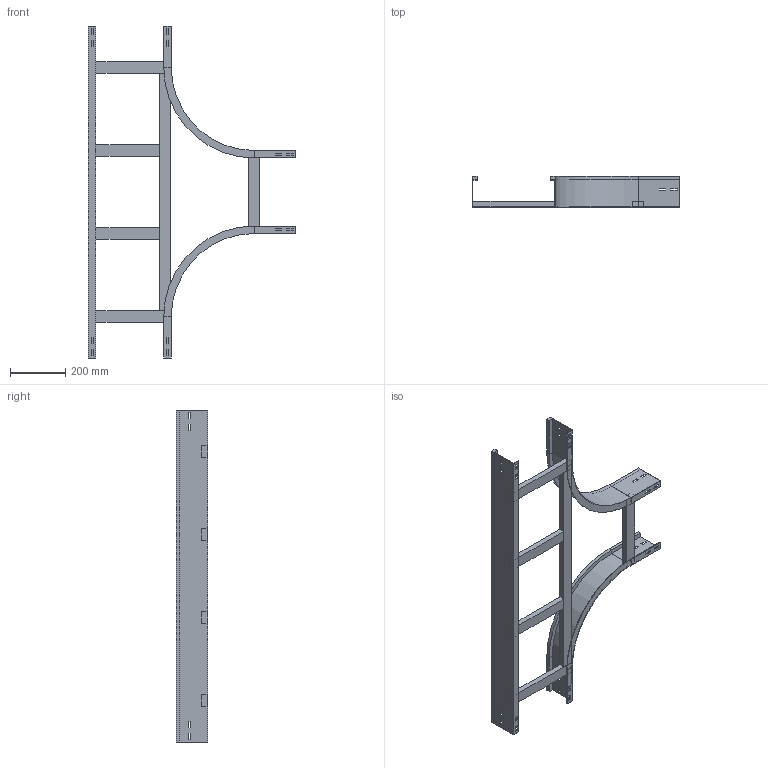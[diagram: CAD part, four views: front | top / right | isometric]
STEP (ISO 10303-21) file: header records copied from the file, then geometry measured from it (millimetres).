
FILE_DESCRIPTION (( 'STEP AP214' ), '1' );
FILE_NAME ('A2_15B3J300.step', '2025-02-21T15:51:24', ( '' ), ( '' ), 'SwSTEP 2.0', 'SolidWorks 2023', '' );
FILE_SCHEMA (( 'AUTOMOTIVE_DESIGN' ));
Length unit declared in the file: millimetre
Products named in the file (6): A2_LONGH.RETT_H112.5_R300+300; TRAVERSINO_300; A2_15B3J300; A2_LONGH.INTERNO 90°_H112.5_R300; A2_TRAVERSINO_LONG._R300+300; TRAVERSINO_INTERMEDIO_R300+300
Assembly tree (9 placements, depth 2):
  A2_15B3J300
    A2_LONGH.INTERNO 90°_H112.5_R300  x2
    A2_LONGH.RETT_H112.5_R300+300
    TRAVERSINO_300  x3
    A2_TRAVERSINO_LONG._R300+300
    TRAVERSINO_INTERMEDIO_R300+300  x2
Bounding box: 750 x 112.5 x 1200 mm (x, y, z)
Volume: 3111746.5 mm3; surface area: 1138865.7 mm2
Topology: 9 solids, 9 shells, 194 faces, 496 edges, 320 vertices
Faces by surface type: plane 186, cylinder 8
Entity records: 3815 total; most frequent: CARTESIAN_POINT 638, ORIENTED_EDGE 616, DIRECTION 576, EDGE_CURVE 308, VECTOR 300, LINE 300, VERTEX_POINT 200, EDGE_LOOP 150
